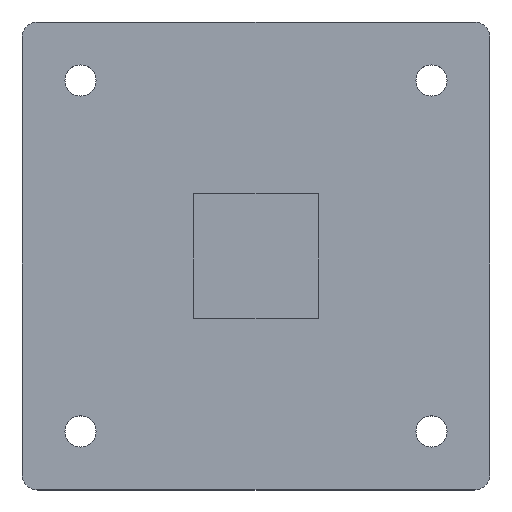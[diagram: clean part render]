
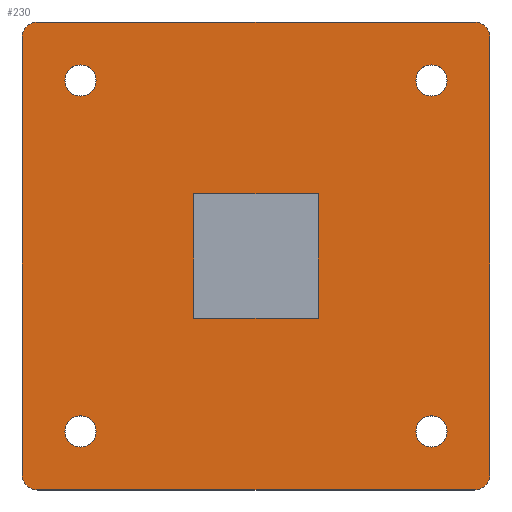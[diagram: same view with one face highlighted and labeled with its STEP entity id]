
A CAD part, top view. The second image highlights one B-rep face of the part: STEP entity #230.
In plain terms, the highlighted planar face has unit normal (0, 0, 1).
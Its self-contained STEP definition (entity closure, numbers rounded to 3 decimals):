
#230 = ADVANCED_FACE( '', ( #613, #614, #615, #616, #617, #618 ), #619, .T. );
#232 = VERTEX_POINT( '', #621 );
#242 = EDGE_CURVE( '', #254, #388, #631, .T. );
#250 = EDGE_CURVE( '', #278, #254, #639, .T. );
#254 = VERTEX_POINT( '', #644 );
#276 = EDGE_CURVE( '', #286, #278, #668, .T. );
#278 = VERTEX_POINT( '', #670 );
#286 = VERTEX_POINT( '', #678 );
#288 = EDGE_CURVE( '', #314, #286, #680, .T. );
#300 = VERTEX_POINT( '', #696 );
#304 = EDGE_CURVE( '', #320, #314, #700, .T. );
#312 = VERTEX_POINT( '', #708 );
#314 = VERTEX_POINT( '', #710 );
#320 = VERTEX_POINT( '', #717 );
#324 = VERTEX_POINT( '', #721 );
#326 = EDGE_CURVE( '', #312, #320, #723, .T. );
#332 = EDGE_CURVE( '', #380, #312, #729, .T. );
#336 = EDGE_CURVE( '', #490, #232, #733, .T. );
#342 = VERTEX_POINT( '', #739 );
#378 = EDGE_CURVE( '', #388, #380, #779, .T. );
#380 = VERTEX_POINT( '', #781 );
#388 = VERTEX_POINT( '', #790 );
#392 = EDGE_CURVE( '', #232, #490, #794, .T. );
#402 = EDGE_CURVE( '', #300, #324, #804, .T. );
#412 = VERTEX_POINT( '', #816 );
#414 = VERTEX_POINT( '', #818 );
#420 = EDGE_CURVE( '', #500, #342, #825, .T. );
#426 = EDGE_CURVE( '', #412, #414, #832, .T. );
#430 = EDGE_CURVE( '', #488, #526, #836, .T. );
#448 = EDGE_CURVE( '', #414, #412, #856, .T. );
#468 = EDGE_CURVE( '', #324, #300, #880, .T. );
#478 = EDGE_CURVE( '', #510, #488, #890, .T. );
#488 = VERTEX_POINT( '', #900 );
#490 = VERTEX_POINT( '', #902 );
#500 = VERTEX_POINT( '', #913 );
#504 = EDGE_CURVE( '', #550, #510, #917, .T. );
#510 = VERTEX_POINT( '', #924 );
#518 = EDGE_CURVE( '', #342, #500, #932, .T. );
#526 = VERTEX_POINT( '', #940 );
#548 = EDGE_CURVE( '', #526, #550, #964, .T. );
#550 = VERTEX_POINT( '', #966 );
#613 = FACE_BOUND( '', #1025, .T. );
#614 = FACE_OUTER_BOUND( '', #1026, .T. );
#615 = FACE_BOUND( '', #1027, .T. );
#616 = FACE_BOUND( '', #1028, .T. );
#617 = FACE_BOUND( '', #1029, .T. );
#618 = FACE_BOUND( '', #1030, .T. );
#619 = PLANE( '', #1031 );
#621 = CARTESIAN_POINT( '', ( 24.5, -22.5, 0. ) );
#631 = CIRCLE( '', #1046, 2. );
#639 = LINE( '', #1058, #1059 );
#644 = CARTESIAN_POINT( '', ( -28., -30., 0. ) );
#668 = CIRCLE( '', #1096, 2. );
#670 = CARTESIAN_POINT( '', ( 28., -30., 0. ) );
#678 = CARTESIAN_POINT( '', ( 30., -28., 0. ) );
#680 = LINE( '', #1114, #1115 );
#696 = CARTESIAN_POINT( '', ( 24.5, 22.5, 0. ) );
#700 = CIRCLE( '', #1140, 2. );
#708 = CARTESIAN_POINT( '', ( -28., 30., 0. ) );
#710 = CARTESIAN_POINT( '', ( 30., 28., 0. ) );
#717 = CARTESIAN_POINT( '', ( 28., 30., 0. ) );
#721 = CARTESIAN_POINT( '', ( 20.5, 22.5, 0. ) );
#723 = LINE( '', #1167, #1168 );
#729 = CIRCLE( '', #1176, 2. );
#733 = CIRCLE( '', #1182, 2. );
#739 = CARTESIAN_POINT( '', ( -24.5, -22.5, 0. ) );
#779 = LINE( '', #1245, #1246 );
#781 = CARTESIAN_POINT( '', ( -30., 28., 0. ) );
#790 = CARTESIAN_POINT( '', ( -30., -28., 0. ) );
#794 = CIRCLE( '', #1265, 2. );
#804 = CIRCLE( '', #1280, 2. );
#816 = CARTESIAN_POINT( '', ( -20.5, 22.5, 0. ) );
#818 = CARTESIAN_POINT( '', ( -24.5, 22.5, 0. ) );
#825 = CIRCLE( '', #1304, 2. );
#832 = CIRCLE( '', #1314, 2. );
#836 = LINE( '', #1319, #1320 );
#856 = CIRCLE( '', #1349, 2. );
#880 = CIRCLE( '', #1378, 2. );
#890 = LINE( '', #1392, #1393 );
#900 = CARTESIAN_POINT( '', ( 8., 8., 0. ) );
#902 = CARTESIAN_POINT( '', ( 20.5, -22.5, 0. ) );
#913 = CARTESIAN_POINT( '', ( -20.5, -22.5, 0. ) );
#917 = LINE( '', #1431, #1432 );
#924 = CARTESIAN_POINT( '', ( -8., 8., 0. ) );
#932 = CIRCLE( '', #1454, 2. );
#940 = CARTESIAN_POINT( '', ( 8., -8., 0. ) );
#964 = LINE( '', #1496, #1497 );
#966 = CARTESIAN_POINT( '', ( -8., -8., 0. ) );
#1025 = EDGE_LOOP( '', ( #1601, #1602, #1603, #1604 ) );
#1026 = EDGE_LOOP( '', ( #1605, #1606, #1607, #1608, #1609, #1610, #1611, #1612 ) );
#1027 = EDGE_LOOP( '', ( #1613, #1614 ) );
#1028 = EDGE_LOOP( '', ( #1615, #1616 ) );
#1029 = EDGE_LOOP( '', ( #1617, #1618 ) );
#1030 = EDGE_LOOP( '', ( #1619, #1620 ) );
#1031 = AXIS2_PLACEMENT_3D( '', #1621, #1622, #1623 );
#1046 = AXIS2_PLACEMENT_3D( '', #1634, #1635, #1636 );
#1058 = CARTESIAN_POINT( '', ( -28., -30., 0. ) );
#1059 = VECTOR( '', #1641, 1. );
#1096 = AXIS2_PLACEMENT_3D( '', #1670, #1671, #1672 );
#1114 = CARTESIAN_POINT( '', ( 30., -28., 0. ) );
#1115 = VECTOR( '', #1678, 1. );
#1140 = AXIS2_PLACEMENT_3D( '', #1707, #1708, #1709 );
#1167 = CARTESIAN_POINT( '', ( 28., 30., 0. ) );
#1168 = VECTOR( '', #1720, 1. );
#1176 = AXIS2_PLACEMENT_3D( '', #1724, #1725, #1726 );
#1182 = AXIS2_PLACEMENT_3D( '', #1730, #1731, #1732 );
#1245 = CARTESIAN_POINT( '', ( -30., 28., 0. ) );
#1246 = VECTOR( '', #1778, 1. );
#1265 = AXIS2_PLACEMENT_3D( '', #1791, #1792, #1793 );
#1280 = AXIS2_PLACEMENT_3D( '', #1796, #1797, #1798 );
#1304 = AXIS2_PLACEMENT_3D( '', #1829, #1830, #1831 );
#1314 = AXIS2_PLACEMENT_3D( '', #1841, #1842, #1843 );
#1319 = CARTESIAN_POINT( '', ( 8., 4., 0. ) );
#1320 = VECTOR( '', #1844, 1. );
#1349 = AXIS2_PLACEMENT_3D( '', #1862, #1863, #1864 );
#1378 = AXIS2_PLACEMENT_3D( '', #1904, #1905, #1906 );
#1392 = CARTESIAN_POINT( '', ( -4., 8., 0. ) );
#1393 = VECTOR( '', #1911, 1. );
#1431 = CARTESIAN_POINT( '', ( -8., -4., 0. ) );
#1432 = VECTOR( '', #1930, 1. );
#1454 = AXIS2_PLACEMENT_3D( '', #1942, #1943, #1944 );
#1496 = CARTESIAN_POINT( '', ( 4., -8., 0. ) );
#1497 = VECTOR( '', #1973, 1. );
#1601 = ORIENTED_EDGE( '', *, *, #478, .T. );
#1602 = ORIENTED_EDGE( '', *, *, #430, .T. );
#1603 = ORIENTED_EDGE( '', *, *, #548, .T. );
#1604 = ORIENTED_EDGE( '', *, *, #504, .T. );
#1605 = ORIENTED_EDGE( '', *, *, #378, .F. );
#1606 = ORIENTED_EDGE( '', *, *, #242, .F. );
#1607 = ORIENTED_EDGE( '', *, *, #250, .F. );
#1608 = ORIENTED_EDGE( '', *, *, #276, .F. );
#1609 = ORIENTED_EDGE( '', *, *, #288, .F. );
#1610 = ORIENTED_EDGE( '', *, *, #304, .F. );
#1611 = ORIENTED_EDGE( '', *, *, #326, .F. );
#1612 = ORIENTED_EDGE( '', *, *, #332, .F. );
#1613 = ORIENTED_EDGE( '', *, *, #392, .F. );
#1614 = ORIENTED_EDGE( '', *, *, #336, .F. );
#1615 = ORIENTED_EDGE( '', *, *, #402, .F. );
#1616 = ORIENTED_EDGE( '', *, *, #468, .F. );
#1617 = ORIENTED_EDGE( '', *, *, #420, .F. );
#1618 = ORIENTED_EDGE( '', *, *, #518, .F. );
#1619 = ORIENTED_EDGE( '', *, *, #426, .F. );
#1620 = ORIENTED_EDGE( '', *, *, #448, .F. );
#1621 = CARTESIAN_POINT( '', ( 0., 0., 0. ) );
#1622 = DIRECTION( '', ( 0., 0., 1. ) );
#1623 = DIRECTION( '', ( 1., 0., 0. ) );
#1634 = CARTESIAN_POINT( '', ( -28., -28., 0. ) );
#1635 = DIRECTION( '', ( 0., 0., -1. ) );
#1636 = DIRECTION( '', ( -1., 0., 0. ) );
#1641 = DIRECTION( '', ( -1., 0., 0. ) );
#1670 = CARTESIAN_POINT( '', ( 28., -28., 0. ) );
#1671 = DIRECTION( '', ( 0., 0., -1. ) );
#1672 = DIRECTION( '', ( 0., -1., 0. ) );
#1678 = DIRECTION( '', ( 0., -1., 0. ) );
#1707 = CARTESIAN_POINT( '', ( 28., 28., 0. ) );
#1708 = DIRECTION( '', ( 0., 0., -1. ) );
#1709 = DIRECTION( '', ( 1., 0., 0. ) );
#1720 = DIRECTION( '', ( 1., 0., 0. ) );
#1724 = CARTESIAN_POINT( '', ( -28., 28., 0. ) );
#1725 = DIRECTION( '', ( 0., 0., -1. ) );
#1726 = DIRECTION( '', ( 0., 1., 0. ) );
#1730 = CARTESIAN_POINT( '', ( 22.5, -22.5, 0. ) );
#1731 = DIRECTION( '', ( 0., 0., 1. ) );
#1732 = DIRECTION( '', ( 1., 0., 0. ) );
#1778 = DIRECTION( '', ( 0., 1., 0. ) );
#1791 = CARTESIAN_POINT( '', ( 22.5, -22.5, 0. ) );
#1792 = DIRECTION( '', ( 0., 0., 1. ) );
#1793 = DIRECTION( '', ( 1., 0., 0. ) );
#1796 = CARTESIAN_POINT( '', ( 22.5, 22.5, 0. ) );
#1797 = DIRECTION( '', ( 0., 0., 1. ) );
#1798 = DIRECTION( '', ( 1., 0., 0. ) );
#1829 = CARTESIAN_POINT( '', ( -22.5, -22.5, 0. ) );
#1830 = DIRECTION( '', ( 0., 0., 1. ) );
#1831 = DIRECTION( '', ( 1., 0., 0. ) );
#1841 = CARTESIAN_POINT( '', ( -22.5, 22.5, 0. ) );
#1842 = DIRECTION( '', ( 0., 0., 1. ) );
#1843 = DIRECTION( '', ( 1., 0., 0. ) );
#1844 = DIRECTION( '', ( 0., -1., 0. ) );
#1862 = CARTESIAN_POINT( '', ( -22.5, 22.5, 0. ) );
#1863 = DIRECTION( '', ( 0., 0., 1. ) );
#1864 = DIRECTION( '', ( 1., 0., 0. ) );
#1904 = CARTESIAN_POINT( '', ( 22.5, 22.5, 0. ) );
#1905 = DIRECTION( '', ( 0., 0., 1. ) );
#1906 = DIRECTION( '', ( 1., 0., 0. ) );
#1911 = DIRECTION( '', ( 1., 0., 0. ) );
#1930 = DIRECTION( '', ( 0., 1., 0. ) );
#1942 = CARTESIAN_POINT( '', ( -22.5, -22.5, 0. ) );
#1943 = DIRECTION( '', ( 0., 0., 1. ) );
#1944 = DIRECTION( '', ( 1., 0., 0. ) );
#1973 = DIRECTION( '', ( -1., 0., 0. ) );
